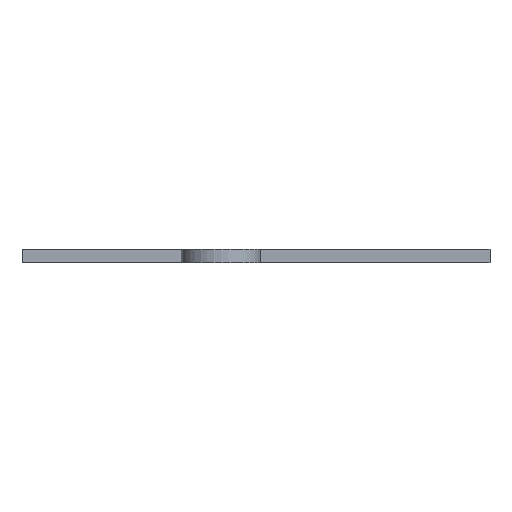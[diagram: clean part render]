
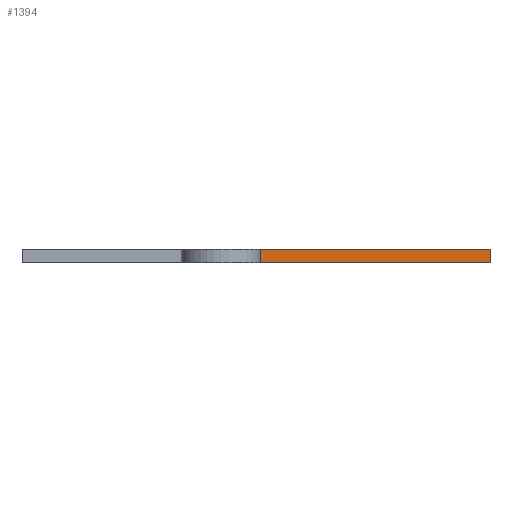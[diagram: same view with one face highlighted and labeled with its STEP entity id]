
A CAD part, front view. The second image highlights one B-rep face of the part: STEP entity #1394.
In plain terms, the highlighted planar face has unit normal (0, -1, 0).
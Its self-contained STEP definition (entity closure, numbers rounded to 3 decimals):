
#72 = PLANE('',#73);
#73 = AXIS2_PLACEMENT_3D('',#74,#75,#76);
#74 = CARTESIAN_POINT('',(-31.,-19.7,0.));
#75 = DIRECTION('',(0.,0.,1.));
#76 = DIRECTION('',(1.,0.,0.));
#126 = PLANE('',#127);
#127 = AXIS2_PLACEMENT_3D('',#128,#129,#130);
#128 = CARTESIAN_POINT('',(-31.,-19.7,1.8));
#129 = DIRECTION('',(0.,0.,1.));
#130 = DIRECTION('',(1.,0.,0.));
#293 = VERTEX_POINT('',#294);
#294 = CARTESIAN_POINT('',(-1.,-19.7,1.8));
#308 = PLANE('',#309);
#309 = AXIS2_PLACEMENT_3D('',#310,#311,#312);
#310 = CARTESIAN_POINT('',(-1.,-43.,0.));
#311 = DIRECTION('',(1.,0.,0.));
#312 = DIRECTION('',(0.,0.,1.));
#320 = EDGE_CURVE('',#321,#293,#323,.T.);
#321 = VERTEX_POINT('',#322);
#322 = CARTESIAN_POINT('',(30.2,-19.7,1.8));
#323 = SURFACE_CURVE('',#324,(#328,#335),.PCURVE_S1.);
#324 = LINE('',#325,#326);
#325 = CARTESIAN_POINT('',(30.2,-19.7,1.8));
#326 = VECTOR('',#327,1.);
#327 = DIRECTION('',(-1.,0.,0.));
#328 = PCURVE('',#126,#329);
#329 = DEFINITIONAL_REPRESENTATION('',(#330),#334);
#330 = LINE('',#331,#332);
#331 = CARTESIAN_POINT('',(61.2,0.));
#332 = VECTOR('',#333,1.);
#333 = DIRECTION('',(-1.,0.));
#334 = ( GEOMETRIC_REPRESENTATION_CONTEXT(2) 
PARAMETRIC_REPRESENTATION_CONTEXT() REPRESENTATION_CONTEXT('2D SPACE',''
  ) );
#335 = PCURVE('',#336,#341);
#336 = PLANE('',#337);
#337 = AXIS2_PLACEMENT_3D('',#338,#339,#340);
#338 = CARTESIAN_POINT('',(-31.,-19.7,0.));
#339 = DIRECTION('',(0.,1.,0.));
#340 = DIRECTION('',(0.,0.,1.));
#341 = DEFINITIONAL_REPRESENTATION('',(#342),#346);
#342 = LINE('',#343,#344);
#343 = CARTESIAN_POINT('',(1.8,61.2));
#344 = VECTOR('',#345,1.);
#345 = DIRECTION('',(0.,-1.));
#346 = ( GEOMETRIC_REPRESENTATION_CONTEXT(2) 
PARAMETRIC_REPRESENTATION_CONTEXT() REPRESENTATION_CONTEXT('2D SPACE',''
  ) );
#364 = PLANE('',#365);
#365 = AXIS2_PLACEMENT_3D('',#366,#367,#368);
#366 = CARTESIAN_POINT('',(30.2,-19.7,0.));
#367 = DIRECTION('',(1.,0.,0.));
#368 = DIRECTION('',(0.,0.,1.));
#830 = VERTEX_POINT('',#831);
#831 = CARTESIAN_POINT('',(-1.,-19.7,0.));
#852 = EDGE_CURVE('',#830,#853,#855,.T.);
#853 = VERTEX_POINT('',#854);
#854 = CARTESIAN_POINT('',(30.2,-19.7,0.));
#855 = SURFACE_CURVE('',#856,(#860,#867),.PCURVE_S1.);
#856 = LINE('',#857,#858);
#857 = CARTESIAN_POINT('',(-31.,-19.7,0.));
#858 = VECTOR('',#859,1.);
#859 = DIRECTION('',(1.,0.,0.));
#860 = PCURVE('',#72,#861);
#861 = DEFINITIONAL_REPRESENTATION('',(#862),#866);
#862 = LINE('',#863,#864);
#863 = CARTESIAN_POINT('',(0.,0.));
#864 = VECTOR('',#865,1.);
#865 = DIRECTION('',(1.,0.));
#866 = ( GEOMETRIC_REPRESENTATION_CONTEXT(2) 
PARAMETRIC_REPRESENTATION_CONTEXT() REPRESENTATION_CONTEXT('2D SPACE',''
  ) );
#867 = PCURVE('',#336,#868);
#868 = DEFINITIONAL_REPRESENTATION('',(#869),#873);
#869 = LINE('',#870,#871);
#870 = CARTESIAN_POINT('',(0.,0.));
#871 = VECTOR('',#872,1.);
#872 = DIRECTION('',(0.,1.));
#873 = ( GEOMETRIC_REPRESENTATION_CONTEXT(2) 
PARAMETRIC_REPRESENTATION_CONTEXT() REPRESENTATION_CONTEXT('2D SPACE',''
  ) );
#1351 = EDGE_CURVE('',#293,#830,#1352,.T.);
#1352 = SURFACE_CURVE('',#1353,(#1357,#1363),.PCURVE_S1.);
#1353 = LINE('',#1354,#1355);
#1354 = CARTESIAN_POINT('',(-1.,-19.7,0.));
#1355 = VECTOR('',#1356,1.);
#1356 = DIRECTION('',(0.,0.,-1.));
#1357 = PCURVE('',#308,#1358);
#1358 = DEFINITIONAL_REPRESENTATION('',(#1359),#1362);
#1359 = B_SPLINE_CURVE_WITH_KNOTS('',1,(#1360,#1361),.UNSPECIFIED.,.F.,
  .F.,(2,2),(-1.8,0.),.PIECEWISE_BEZIER_KNOTS.);
#1360 = CARTESIAN_POINT('',(1.8,-23.3));
#1361 = CARTESIAN_POINT('',(0.,-23.3));
#1362 = ( GEOMETRIC_REPRESENTATION_CONTEXT(2) 
PARAMETRIC_REPRESENTATION_CONTEXT() REPRESENTATION_CONTEXT('2D SPACE',''
  ) );
#1363 = PCURVE('',#336,#1364);
#1364 = DEFINITIONAL_REPRESENTATION('',(#1365),#1368);
#1365 = B_SPLINE_CURVE_WITH_KNOTS('',1,(#1366,#1367),.UNSPECIFIED.,.F.,
  .F.,(2,2),(-1.8,0.),.PIECEWISE_BEZIER_KNOTS.);
#1366 = CARTESIAN_POINT('',(1.8,30.));
#1367 = CARTESIAN_POINT('',(0.,30.));
#1368 = ( GEOMETRIC_REPRESENTATION_CONTEXT(2) 
PARAMETRIC_REPRESENTATION_CONTEXT() REPRESENTATION_CONTEXT('2D SPACE',''
  ) );
#1394 = ADVANCED_FACE('',(#1395),#336,.F.);
#1395 = FACE_BOUND('',#1396,.F.);
#1396 = EDGE_LOOP('',(#1397,#1398,#1399,#1400));
#1397 = ORIENTED_EDGE('',*,*,#852,.F.);
#1398 = ORIENTED_EDGE('',*,*,#1351,.F.);
#1399 = ORIENTED_EDGE('',*,*,#320,.F.);
#1400 = ORIENTED_EDGE('',*,*,#1401,.F.);
#1401 = EDGE_CURVE('',#853,#321,#1402,.T.);
#1402 = SURFACE_CURVE('',#1403,(#1407,#1414),.PCURVE_S1.);
#1403 = LINE('',#1404,#1405);
#1404 = CARTESIAN_POINT('',(30.2,-19.7,0.));
#1405 = VECTOR('',#1406,1.);
#1406 = DIRECTION('',(0.,0.,1.));
#1407 = PCURVE('',#336,#1408);
#1408 = DEFINITIONAL_REPRESENTATION('',(#1409),#1413);
#1409 = LINE('',#1410,#1411);
#1410 = CARTESIAN_POINT('',(0.,61.2));
#1411 = VECTOR('',#1412,1.);
#1412 = DIRECTION('',(1.,0.));
#1413 = ( GEOMETRIC_REPRESENTATION_CONTEXT(2) 
PARAMETRIC_REPRESENTATION_CONTEXT() REPRESENTATION_CONTEXT('2D SPACE',''
  ) );
#1414 = PCURVE('',#364,#1415);
#1415 = DEFINITIONAL_REPRESENTATION('',(#1416),#1420);
#1416 = LINE('',#1417,#1418);
#1417 = CARTESIAN_POINT('',(0.,0.));
#1418 = VECTOR('',#1419,1.);
#1419 = DIRECTION('',(1.,0.));
#1420 = ( GEOMETRIC_REPRESENTATION_CONTEXT(2) 
PARAMETRIC_REPRESENTATION_CONTEXT() REPRESENTATION_CONTEXT('2D SPACE',''
  ) );
